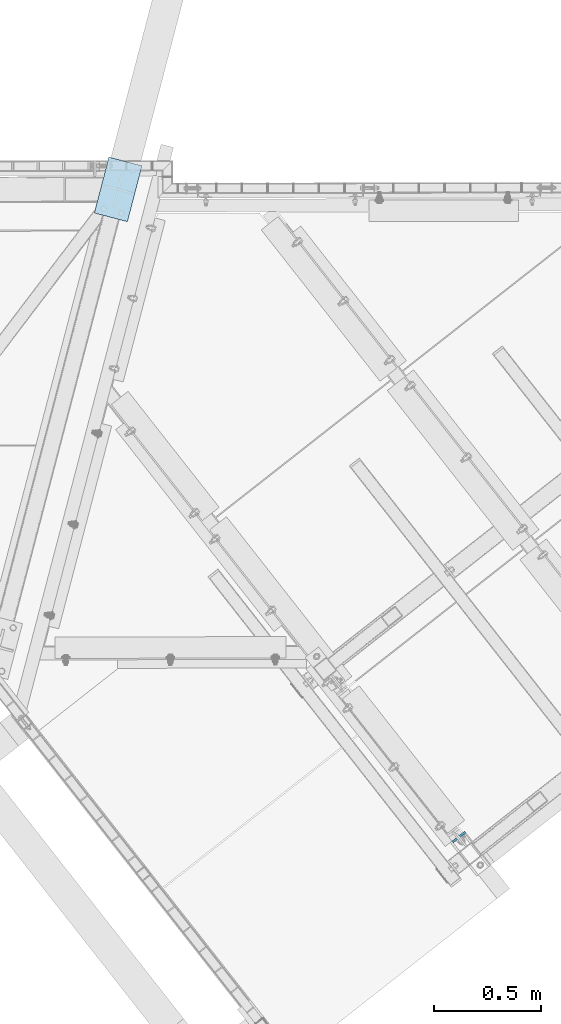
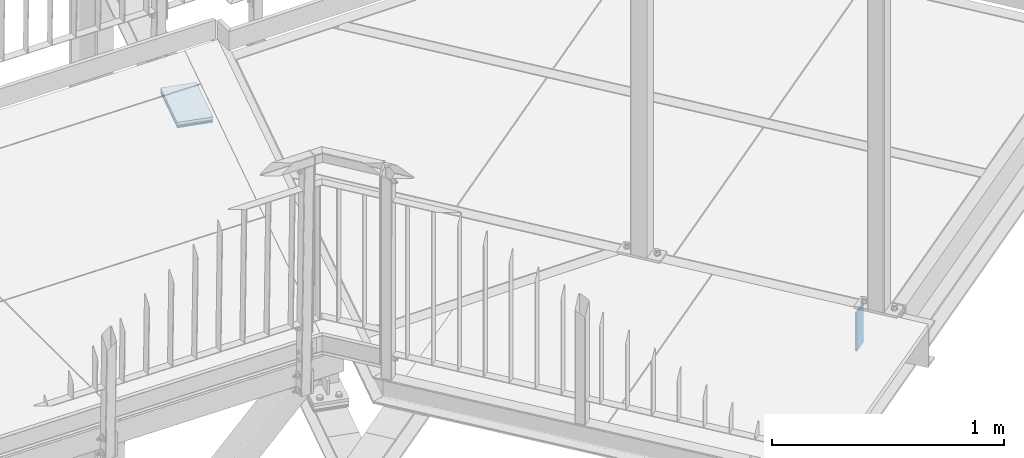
# One storey, part 30 of 169: 5 plates, 5 elements without a shape of their own.
"""IFC2X3 building model written with IfcOpenShell, lengths in millimetres."""

from ifc_helpers import new_model, si_unit, frame, origin_with_axes, place, context, subcontext, project, spatial, polyline, outline, extrude, material, type_object, element, aggregate, save


model = new_model("IFC2X3")

# Units and contexts
model_context = context("Model", 3, precision=1e-05, world=origin_with_axes())
body_context = subcontext(model_context, "Body", "Model", "MODEL_VIEW")
ifc_project = project(units=[si_unit("LENGTHUNIT", "METRE", prefix="MILLI"), si_unit("AREAUNIT", "SQUARE_METRE"), si_unit("VOLUMEUNIT", "CUBIC_METRE"), si_unit("MASSUNIT", "GRAM", prefix="KILO"), si_unit("TIMEUNIT", "SECOND"), si_unit("PLANEANGLEUNIT", "RADIAN"), si_unit("SOLIDANGLEUNIT", "STERADIAN"), si_unit("THERMODYNAMICTEMPERATUREUNIT", "DEGREE_CELSIUS"), si_unit("LUMINOUSINTENSITYUNIT", "LUMEN")], contexts=[model_context])

# Site, building, storey
site_placement = place(None, origin_with_axes())
site = spatial("IfcSite", under=ifc_project, at=site_placement, Name="Undefined", CompositionType="ELEMENT")
building_placement = place(site_placement, origin_with_axes())
building = spatial("IfcBuilding", under=site, at=building_placement, Name="Undefined", CompositionType="ELEMENT")
storey_placement = place(building_placement, origin_with_axes())
storey = spatial("IfcBuildingStorey", under=building, at=storey_placement, Name="Undefined", CompositionType="ELEMENT", Elevation=0.0)

# Assembly, plate
assembly_1_placement = place(storey_placement, origin_with_axes())
assembly_1 = element("IfcElementAssembly", 1, at=assembly_1_placement, inside=storey, Name="Steel Assembly", AssemblyPlace="NOTDEFINED", PredefinedType="RIGID_FRAME")
ifc_material_1 = material(Name="STEEL/S235")
plate_type_1 = type_object("IfcPlateType", Name="BL10*75", PredefinedType="NOTDEFINED")
plate_1_placement = place(assembly_1_placement, frame((20619.41628367, -725.463725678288, 13565.4175348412), z_axis=(0.617242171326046, -0.786773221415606, 1.36000016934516e-07), x_axis=(0.0, 0.0, 1.0)))
plate_1 = element("IfcPlate", 2, at=plate_1_placement, type_object=plate_type_1, material=ifc_material_1, Name="BLACHA", ObjectType="BL10*75", context=body_context, shape_type="SweptSolid", body=[
    extrude(outline(polyline([(0.0, 0.0), (200.000000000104, 3.74711817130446e-10), (199.999893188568, 74.9999771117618), (1.85900717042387e-09, 74.9999771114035), (0.0, 0.0)])), frame((-1.81898926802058e-12, -1.18000176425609e-16, -5.00000000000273), z_axis=(0.0, 0.0, 1.0), x_axis=(1.0, 0.0, 0.0)), (0.0, 0.0, 1.0), 10.0),
])
aggregate(assembly_1, [plate_1])

assembly_2_placement = place(storey_placement, origin_with_axes())
assembly_2 = element("IfcElementAssembly", 3, at=assembly_2_placement, inside=storey, Name="Steel Assembly", AssemblyPlace="NOTDEFINED", PredefinedType="RIGID_FRAME")
ifc_material_2 = material(Name="STEEL/S355")
plate_type_2 = type_object("IfcPlateType", Name="BL5*160", PredefinedType="NOTDEFINED")
plate_2_placement = place(assembly_2_placement, frame((18884.6727051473, 2170.02370559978, 13542.7063920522), z_axis=(0.0, 0.0, 1.0), x_axis=(0.967563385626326, -0.252628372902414, 0.0)))
plate_2 = element("IfcPlate", 4, at=plate_2_placement, type_object=plate_type_2, material=ifc_material_2, Name="BLACHA", ObjectType="BL5*160", context=body_context, shape_type="SweptSolid", body=[
    extrude(outline(polyline([(0.0, 0.0), (160.000000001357, 1.36424205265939e-10), (160.000000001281, 269.999999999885), (-5.46424416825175e-09, 269.999999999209), (0.0, 0.0)])), frame((6.80888809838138e-19, -2.87858853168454e-21, -2.49999999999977), z_axis=(0.0, 0.0, 1.0), x_axis=(1.0, 0.0, 0.0)), (0.0, 0.0, 1.0), 5.0),
])
aggregate(assembly_2, [plate_2])

assembly_3_placement = place(storey_placement, origin_with_axes())
assembly_3 = element("IfcElementAssembly", 5, at=assembly_3_placement, inside=storey, Name="Steel Assembly", AssemblyPlace="NOTDEFINED", PredefinedType="RIGID_FRAME")
plate_3_placement = place(assembly_3_placement, frame((18884.6727034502, 2170.02370622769, 13552.7063918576), z_axis=(0.0, 0.0, 1.0), x_axis=(0.967563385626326, -0.252628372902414, 0.0)))
plate_3 = element("IfcPlate", 6, at=plate_3_placement, type_object=plate_type_2, material=ifc_material_2, Name="BLACHA", ObjectType="BL5*160", context=body_context, shape_type="SweptSolid", body=[
    extrude(outline(polyline([(0.0, 0.0), (160.000000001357, 1.36424205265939e-10), (160.000000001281, 269.999999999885), (-5.46424416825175e-09, 269.999999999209), (0.0, 0.0)])), frame((6.80888809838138e-19, -2.87858853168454e-21, -2.49999999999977), z_axis=(0.0, 0.0, 1.0), x_axis=(1.0, 0.0, 0.0)), (0.0, 0.0, 1.0), 5.0),
])
aggregate(assembly_3, [plate_3])

assembly_4_placement = place(storey_placement, origin_with_axes())
assembly_4 = element("IfcElementAssembly", 7, at=assembly_4_placement, inside=storey, Name="Steel Assembly", AssemblyPlace="NOTDEFINED", PredefinedType="RIGID_FRAME")
plate_4_placement = place(assembly_4_placement, frame((18884.6727043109, 2170.02370581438, 13547.7063919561), z_axis=(0.0, 0.0, 1.0), x_axis=(0.967563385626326, -0.252628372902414, 0.0)))
plate_4 = element("IfcPlate", 8, at=plate_4_placement, type_object=plate_type_2, material=ifc_material_2, Name="BLACHA", ObjectType="BL5*160", context=body_context, shape_type="SweptSolid", body=[
    extrude(outline(polyline([(0.0, 0.0), (160.000000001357, 1.36424205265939e-10), (160.000000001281, 269.999999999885), (-5.46424416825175e-09, 269.999999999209), (0.0, 0.0)])), frame((6.80888809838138e-19, -2.87858853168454e-21, -2.49999999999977), z_axis=(0.0, 0.0, 1.0), x_axis=(1.0, 0.0, 0.0)), (0.0, 0.0, 1.0), 5.0),
])
aggregate(assembly_4, [plate_4])

assembly_5_placement = place(storey_placement, origin_with_axes())
assembly_5 = element("IfcElementAssembly", 9, at=assembly_5_placement, inside=storey, Name="Steel Assembly", AssemblyPlace="NOTDEFINED", PredefinedType="RIGID_FRAME")
plate_type_3 = type_object("IfcPlateType", Name="BL15*160", PredefinedType="NOTDEFINED")
plate_5_placement = place(assembly_5_placement, frame((18884.6726985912, 2170.02370867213, 13562.7063918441), z_axis=(0.0, 0.0, 1.0), x_axis=(0.967563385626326, -0.252628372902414, 0.0)))
plate_5 = element("IfcPlate", 10, at=plate_5_placement, type_object=plate_type_3, material=ifc_material_2, Name="BLACHA", ObjectType="BL15*160", context=body_context, shape_type="SweptSolid", body=[
    extrude(outline(polyline([(0.0, 0.0), (160.000000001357, 1.36424205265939e-10), (160.000000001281, 269.999999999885), (-5.46424416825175e-09, 269.999999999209), (0.0, 0.0)])), frame((0.0, -1.24077091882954e-23, -7.49999999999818), z_axis=(0.0, 0.0, 1.0), x_axis=(1.0, 0.0, 0.0)), (0.0, 0.0, 1.0), 15.0),
])
aggregate(assembly_5, [plate_5])

save(model, "model.ifc")
